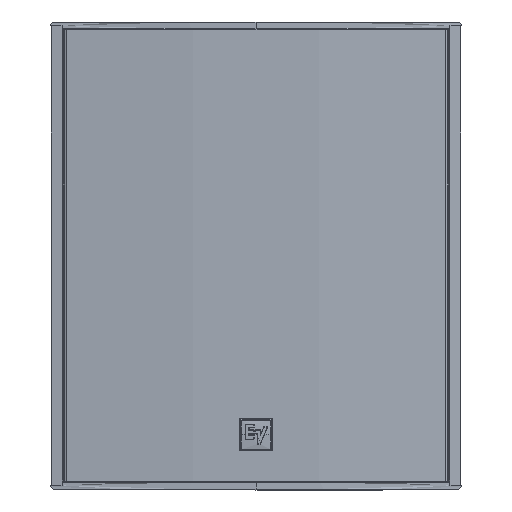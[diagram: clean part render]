
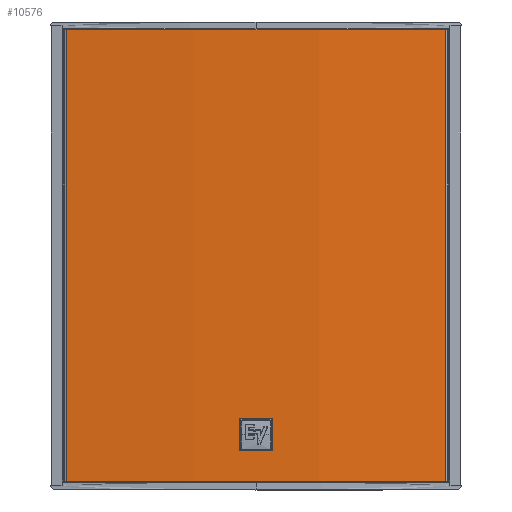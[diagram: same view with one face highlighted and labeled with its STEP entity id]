
A CAD part, top view. The second image highlights one B-rep face of the part: STEP entity #10576.
In plain terms, the highlighted cylindrical face has radius 2921 mm (diameter 5842 mm), a partial arc.
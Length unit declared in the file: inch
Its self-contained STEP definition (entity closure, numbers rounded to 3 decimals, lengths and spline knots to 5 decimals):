
#143 = AXIS2_PLACEMENT_3D ( 'NONE', #20487, #2932, #18722 ) ;
#147 = EDGE_CURVE ( 'NONE', #10726, #1456, #7642, .T. ) ;
#1210 = DIRECTION ( 'NONE',  ( 0., -1., 0. ) ) ;
#1245 = VECTOR ( 'NONE', #1210, 39.37008 ) ;
#1456 = VERTEX_POINT ( 'NONE', #1524 ) ;
#1524 = CARTESIAN_POINT ( 'NONE',  ( -12.30403, 14.6321, -0.59711 ) ) ;
#2932 = DIRECTION ( 'NONE',  ( 0., 1., 0. ) ) ;
#2968 = EDGE_CURVE ( 'NONE', #11889, #10726, #20320, .T. ) ;
#4529 = CARTESIAN_POINT ( 'NONE',  ( 12.30403, 14.6321, -0.59711 ) ) ;
#5874 = DIRECTION ( 'NONE',  ( 0., 0., -1. ) ) ;
#5896 = CARTESIAN_POINT ( 'NONE',  ( -12.30403, 14.6321, -0.59711 ) ) ;
#6115 = CIRCLE ( 'NONE', #143, 115. ) ;
#7245 = DIRECTION ( 'NONE',  ( 0., -1., 0. ) ) ;
#7642 = CIRCLE ( 'NONE', #8295, 115. ) ;
#8132 = AXIS2_PLACEMENT_3D ( 'NONE', #11427, #13519, #18285 ) ;
#8295 = AXIS2_PLACEMENT_3D ( 'NONE', #19996, #7245, #5874 ) ;
#9784 = FACE_OUTER_BOUND ( 'NONE', #17837, .T. ) ;
#10414 = EDGE_CURVE ( 'NONE', #19396, #11889, #6115, .T. ) ;
#10576 = ADVANCED_FACE ( 'NONE', ( #9784 ), #14554, .T. ) ;
#10726 = VERTEX_POINT ( 'NONE', #16428 ) ;
#10860 = DIRECTION ( 'NONE',  ( 0., 1., 0. ) ) ;
#10900 = CARTESIAN_POINT ( 'NONE',  ( 12.30403, -14.6321, -0.59711 ) ) ;
#11427 = CARTESIAN_POINT ( 'NONE',  ( 0., 14.6321, -114.937 ) ) ;
#11889 = VERTEX_POINT ( 'NONE', #10900 ) ;
#11928 = VECTOR ( 'NONE', #10860, 39.37008 ) ;
#13062 = CARTESIAN_POINT ( 'NONE',  ( -12.30403, -14.6321, -0.59711 ) ) ;
#13319 = ORIENTED_EDGE ( 'NONE', *, *, #147, .T. ) ;
#13519 = DIRECTION ( 'NONE',  ( 0., -1., 0. ) ) ;
#14554 = CYLINDRICAL_SURFACE ( 'NONE', #8132, 115. ) ;
#15165 = ORIENTED_EDGE ( 'NONE', *, *, #10414, .T. ) ;
#15538 = LINE ( 'NONE', #5896, #1245 ) ;
#16428 = CARTESIAN_POINT ( 'NONE',  ( 12.30403, 14.6321, -0.59711 ) ) ;
#16430 = EDGE_CURVE ( 'NONE', #1456, #19396, #15538, .T. ) ;
#16600 = ORIENTED_EDGE ( 'NONE', *, *, #16430, .T. ) ;
#17837 = EDGE_LOOP ( 'NONE', ( #13319, #16600, #15165, #19937 ) ) ;
#18285 = DIRECTION ( 'NONE',  ( 0., 0., -1. ) ) ;
#18722 = DIRECTION ( 'NONE',  ( 0., 0., -1. ) ) ;
#19396 = VERTEX_POINT ( 'NONE', #13062 ) ;
#19937 = ORIENTED_EDGE ( 'NONE', *, *, #2968, .T. ) ;
#19996 = CARTESIAN_POINT ( 'NONE',  ( 0., 14.6321, -114.937 ) ) ;
#20320 = LINE ( 'NONE', #4529, #11928 ) ;
#20487 = CARTESIAN_POINT ( 'NONE',  ( 0., -14.6321, -114.937 ) ) ;
